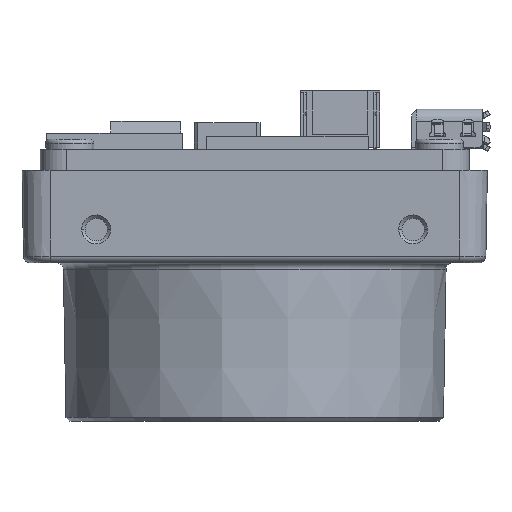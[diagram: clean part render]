
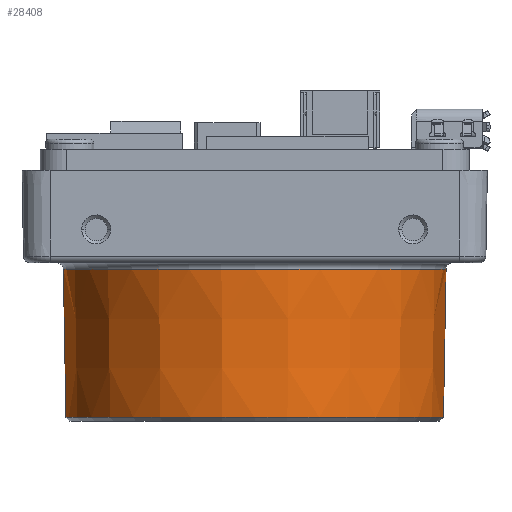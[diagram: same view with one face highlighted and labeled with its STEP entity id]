
A CAD part, front view. The second image highlights one B-rep face of the part: STEP entity #28408.
In plain terms, the highlighted conical face has half-angle 1 degrees and reference radius 14.393 mm.
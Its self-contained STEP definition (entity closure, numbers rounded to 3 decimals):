
#1220=CARTESIAN_POINT('',(0.,0.,-7.491));
#1221=DIRECTION('',(0.,0.,1.));
#1222=DIRECTION('',(-1.,0.,0.));
#1223=AXIS2_PLACEMENT_3D('',#1220,#1221,#1222);
#1225=DIRECTION('',(-0.017,0.,-1.));
#1226=VECTOR('',#1225,11.225);
#1227=CARTESIAN_POINT('',(14.491,0.,
-7.491));
#1228=LINE('',#1227,#1226);
#1229=DIRECTION('',(-0.017,0.,1.));
#1230=VECTOR('',#1229,11.225);
#1231=CARTESIAN_POINT('',(-14.296,0.,
-18.714));
#1232=LINE('',#1231,#1230);
#1233=CARTESIAN_POINT('',(0.,0.,-18.714));
#1234=DIRECTION('',(0.,0.,1.));
#1235=DIRECTION('',(-1.,0.,0.));
#1236=AXIS2_PLACEMENT_3D('',#1233,#1234,#1235);
#1238=CARTESIAN_POINT('',(0.,0.,-18.714));
#1239=DIRECTION('',(0.,0.,1.));
#1240=DIRECTION('',(0.,-1.,0.));
#1241=AXIS2_PLACEMENT_3D('',#1238,#1239,#1240);
#21325=CARTESIAN_POINT('',(-14.491,0.,
-7.491));
#21326=CARTESIAN_POINT('',(14.491,0.,
-7.491));
#21327=VERTEX_POINT('',#21325);
#21328=VERTEX_POINT('',#21326);
#21329=CARTESIAN_POINT('',(14.296,0.,
-18.714));
#21330=CARTESIAN_POINT('',(-14.296,0.,
-18.714));
#21331=VERTEX_POINT('',#21329);
#21332=VERTEX_POINT('',#21330);
#21333=CARTESIAN_POINT('',(0.,-14.296,-18.714));
#21334=VERTEX_POINT('',#21333);
#28394=CARTESIAN_POINT('',(0.,0.,-13.103));
#28395=DIRECTION('',(0.,0.,1.));
#28396=DIRECTION('',(1.,0.,0.));
#28397=AXIS2_PLACEMENT_3D('',#28394,#28395,#28396);
#28398=CONICAL_SURFACE('',#28397,14.393,1.);
#28399=ORIENTED_EDGE('',*,*,#28359,.T.);
#28400=ORIENTED_EDGE('',*,*,#28389,.T.);
#28402=ORIENTED_EDGE('',*,*,#28401,.F.);
#28404=ORIENTED_EDGE('',*,*,#28403,.F.);
#28405=ORIENTED_EDGE('',*,*,#28385,.T.);
#28406=EDGE_LOOP('',(#28399,#28400,#28402,#28404,#28405));
#28407=FACE_OUTER_BOUND('',#28406,.F.);
#28408=ADVANCED_FACE('',(#28407),#28398,.T.);
#1224=CIRCLE('',#1223,14.491);
#1237=CIRCLE('',#1236,14.296);
#1242=CIRCLE('',#1241,14.296);
#28359=EDGE_CURVE('',#21327,#21328,#1224,.T.);
#28385=EDGE_CURVE('',#21332,#21327,#1232,.T.);
#28389=EDGE_CURVE('',#21328,#21331,#1228,.T.);
#28401=EDGE_CURVE('',#21334,#21331,#1242,.T.);
#28403=EDGE_CURVE('',#21332,#21334,#1237,.T.);
